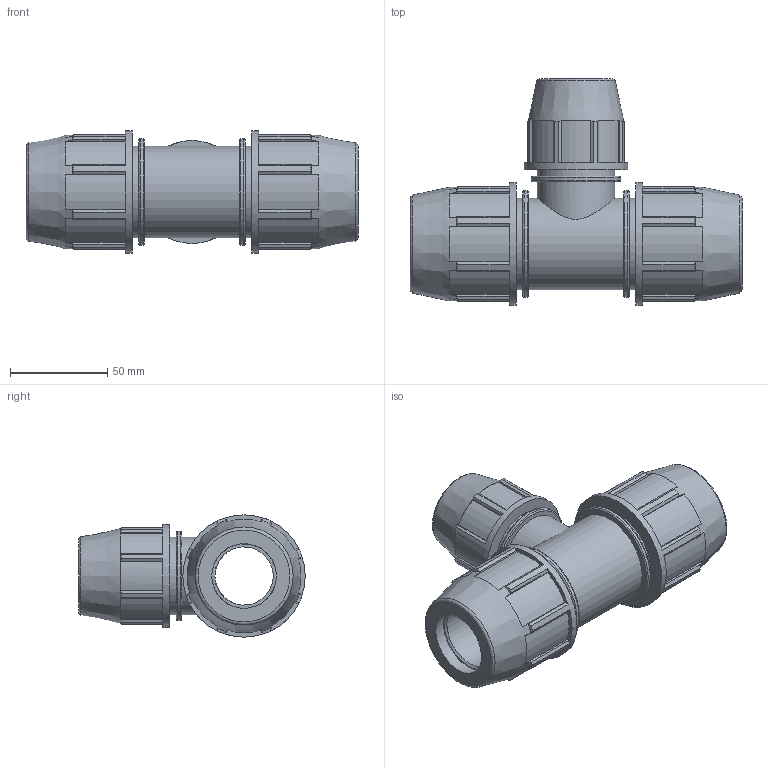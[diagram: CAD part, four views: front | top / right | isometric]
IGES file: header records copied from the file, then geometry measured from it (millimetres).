
Global section: file name: 0734M0010007.ipt; native system: Autodesk Inventor 2019; preprocessor: unknown; author: 12HКирилл; date: 20210826.124756; units: inch
Bounding box: 170.94 x 116.59 x 62.99 mm (x, y, z)
Volume: 322094.7 mm3; surface area: 73520.2 mm2
Topology: 1 solids, 1 shells, 215 faces, 619 edges, 418 vertices
Faces by surface type: plane 138, cylinder 37, revolution 20, cone 20
Full cylindrical faces by diameter (mm): 39.814 x2, 46.185 x1, 47.244 x3, 53.086 x1, 54.803 x2, 62.992 x2
